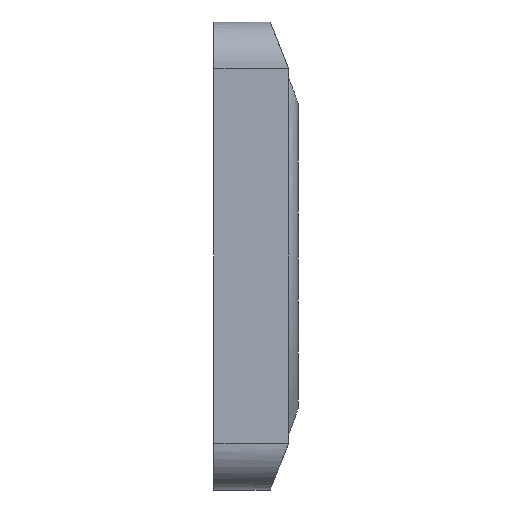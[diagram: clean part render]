
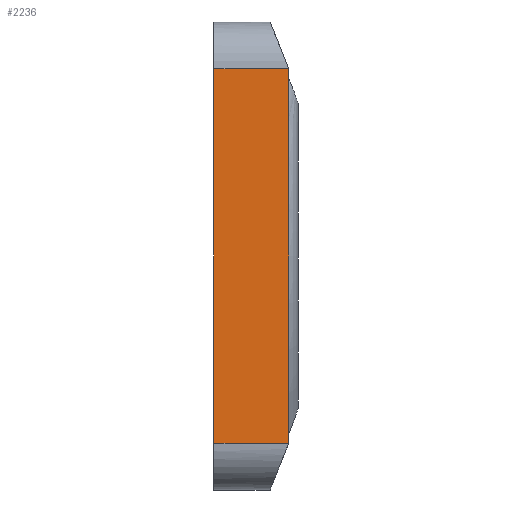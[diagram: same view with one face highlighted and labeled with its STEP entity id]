
A CAD part, front view. The second image highlights one B-rep face of the part: STEP entity #2236.
In plain terms, the highlighted planar face has unit normal (0, -1, 0).
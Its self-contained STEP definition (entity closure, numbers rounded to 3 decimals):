
#135 = EDGE_CURVE ( 'NONE', #1389, #2098, #1804, .T. ) ;
#217 = DIRECTION ( 'NONE',  ( 1., 0., 0. ) ) ;
#223 = ORIENTED_EDGE ( 'NONE', *, *, #951, .F. ) ;
#234 = VECTOR ( 'NONE', #217, 1000. ) ;
#277 = CARTESIAN_POINT ( 'NONE',  ( 0., -16., -32.5 ) ) ;
#290 = CARTESIAN_POINT ( 'NONE',  ( 8., -16., 7.5 ) ) ;
#327 = CARTESIAN_POINT ( 'NONE',  ( 8., -16., 7.5 ) ) ;
#560 = CARTESIAN_POINT ( 'NONE',  ( 0., -16., 7.5 ) ) ;
#606 = VECTOR ( 'NONE', #1923, 1000. ) ;
#644 = DIRECTION ( 'NONE',  ( 0., 0., 1. ) ) ;
#855 = ORIENTED_EDGE ( 'NONE', *, *, #1454, .T. ) ;
#894 = CARTESIAN_POINT ( 'NONE',  ( 8., -16., -32.5 ) ) ;
#951 = EDGE_CURVE ( 'NONE', #1202, #2199, #1911, .T. ) ;
#1144 = DIRECTION ( 'NONE',  ( 0., 0., -1. ) ) ;
#1155 = EDGE_LOOP ( 'NONE', ( #1585, #223, #855, #1452 ) ) ;
#1173 = VECTOR ( 'NONE', #1688, 1000. ) ;
#1193 = EDGE_CURVE ( 'NONE', #2098, #2199, #1623, .T. ) ;
#1202 = VERTEX_POINT ( 'NONE', #1444 ) ;
#1278 = CARTESIAN_POINT ( 'NONE',  ( 0., -16., 7.5 ) ) ;
#1328 = FACE_OUTER_BOUND ( 'NONE', #1155, .T. ) ;
#1389 = VERTEX_POINT ( 'NONE', #277 ) ;
#1444 = CARTESIAN_POINT ( 'NONE',  ( 0., -16., 7.5 ) ) ;
#1452 = ORIENTED_EDGE ( 'NONE', *, *, #135, .T. ) ;
#1454 = EDGE_CURVE ( 'NONE', #1202, #1389, #1907, .T. ) ;
#1521 = CARTESIAN_POINT ( 'NONE',  ( 0., -16., -12.5 ) ) ;
#1585 = ORIENTED_EDGE ( 'NONE', *, *, #1193, .T. ) ;
#1623 = LINE ( 'NONE', #290, #2435 ) ;
#1688 = DIRECTION ( 'NONE',  ( 0., 0., -1. ) ) ;
#1804 = LINE ( 'NONE', #1977, #234 ) ;
#1907 = LINE ( 'NONE', #1278, #1173 ) ;
#1911 = LINE ( 'NONE', #560, #606 ) ;
#1923 = DIRECTION ( 'NONE',  ( 1., 0., 0. ) ) ;
#1977 = CARTESIAN_POINT ( 'NONE',  ( 0., -16., -32.5 ) ) ;
#2057 = PLANE ( 'NONE',  #2411 ) ;
#2098 = VERTEX_POINT ( 'NONE', #894 ) ;
#2111 = DIRECTION ( 'NONE',  ( 0., -1., 0. ) ) ;
#2199 = VERTEX_POINT ( 'NONE', #327 ) ;
#2236 = ADVANCED_FACE ( 'NONE', ( #1328 ), #2057, .T. ) ;
#2411 = AXIS2_PLACEMENT_3D ( 'NONE', #1521, #2111, #1144 ) ;
#2435 = VECTOR ( 'NONE', #644, 1000. ) ;
